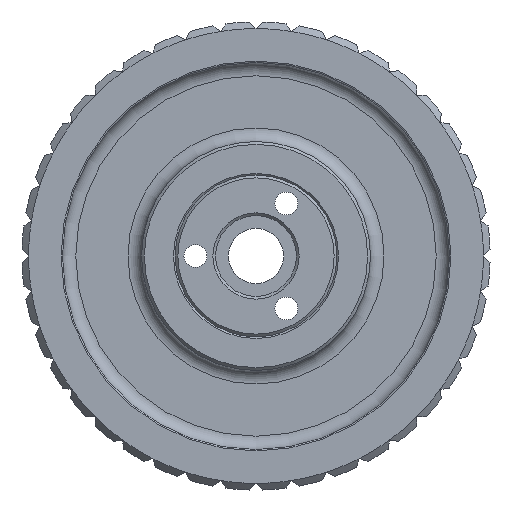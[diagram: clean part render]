
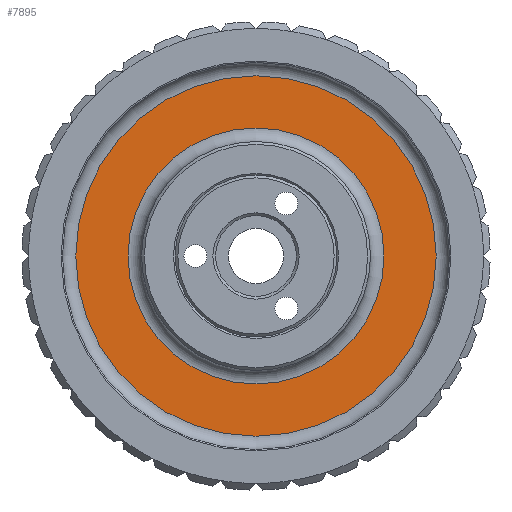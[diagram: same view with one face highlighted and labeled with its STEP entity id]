
A CAD part, left-side view. The second image highlights one B-rep face of the part: STEP entity #7895.
In plain terms, the highlighted planar face has unit normal (-1, 0, 0).
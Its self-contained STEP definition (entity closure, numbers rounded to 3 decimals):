
#1621=PLANE('',#8531);
#1906=FACE_BOUND('',#2615,.T.);
#2153=FACE_OUTER_BOUND('',#2614,.T.);
#2614=EDGE_LOOP('',(#5843));
#2615=EDGE_LOOP('',(#5844));
#3056=CIRCLE('',#8530,19.);
#3057=CIRCLE('',#8532,26.75);
#3405=VERTEX_POINT('',#12237);
#3406=VERTEX_POINT('',#12240);
#4293=EDGE_CURVE('',#3405,#3405,#3056,.T.);
#4294=EDGE_CURVE('',#3406,#3406,#3057,.T.);
#5843=ORIENTED_EDGE('',*,*,#4294,.F.);
#5844=ORIENTED_EDGE('',*,*,#4293,.F.);
#7895=ADVANCED_FACE('',(#2153,#1906),#1621,.T.);
#8530=AXIS2_PLACEMENT_3D('',#12238,#9769,#9770);
#8531=AXIS2_PLACEMENT_3D('',#12239,#9771,#9772);
#8532=AXIS2_PLACEMENT_3D('',#12241,#9773,#9774);
#9769=DIRECTION('center_axis',(-1.,0.,0.));
#9770=DIRECTION('ref_axis',(0.,-1.,0.));
#9771=DIRECTION('center_axis',(-1.,0.,0.));
#9772=DIRECTION('ref_axis',(0.,0.,1.));
#9773=DIRECTION('center_axis',(1.,0.,0.));
#9774=DIRECTION('ref_axis',(0.,-1.,0.));
#12237=CARTESIAN_POINT('',(3.,19.,0.));
#12238=CARTESIAN_POINT('Origin',(3.,0.,
0.));
#12239=CARTESIAN_POINT('Origin',(3.,28.75,0.));
#12240=CARTESIAN_POINT('',(3.,26.75,0.));
#12241=CARTESIAN_POINT('Origin',(3.,0.,
0.));
